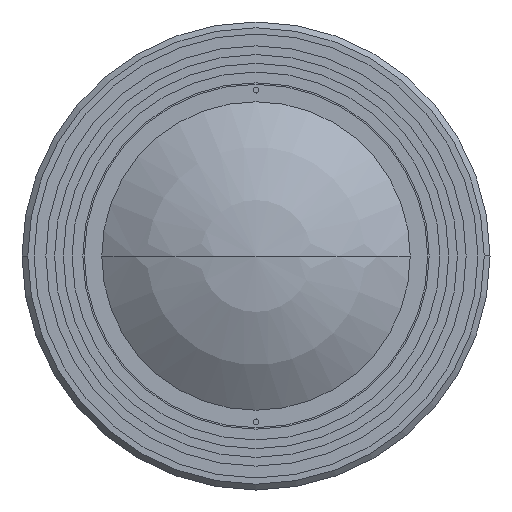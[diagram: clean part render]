
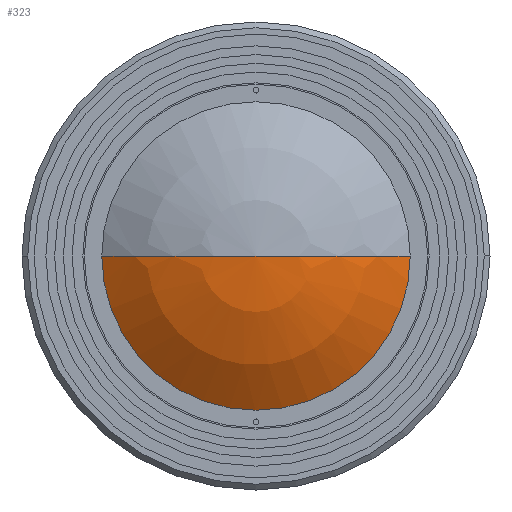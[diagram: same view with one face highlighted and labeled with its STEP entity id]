
A CAD part, left-side view. The second image highlights one B-rep face of the part: STEP entity #323.
In plain terms, the highlighted spherical face has radius 44.07 mm.
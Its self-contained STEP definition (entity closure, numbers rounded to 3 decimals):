
#205=CARTESIAN_POINT('',(44.07,0.,0.));
#206=DIRECTION('',(0.,0.,1.));
#207=DIRECTION('',(-1.,0.,0.));
#208=AXIS2_PLACEMENT_3D('',#205,#206,#207);
#210=CARTESIAN_POINT('',(9.239,0.,0.));
#211=DIRECTION('',(1.,0.,0.));
#212=DIRECTION('',(0.,-1.,0.));
#213=AXIS2_PLACEMENT_3D('',#210,#211,#212);
#215=CARTESIAN_POINT('',(44.07,0.,0.));
#216=DIRECTION('',(0.,0.,-1.));
#217=DIRECTION('',(-1.,0.,0.));
#218=AXIS2_PLACEMENT_3D('',#215,#216,#217);
#229=CARTESIAN_POINT('',(9.239,27.,0.));
#230=VERTEX_POINT('',#229);
#231=CARTESIAN_POINT('',(9.239,-27.,0.));
#232=VERTEX_POINT('',#231);
#233=CARTESIAN_POINT('',(0.,0.,0.));
#234=VERTEX_POINT('',#233);
#311=CARTESIAN_POINT('',(44.07,0.,0.));
#312=DIRECTION('',(-1.,0.,0.));
#313=DIRECTION('',(0.,1.,0.));
#314=AXIS2_PLACEMENT_3D('',#311,#312,#313);
#315=SPHERICAL_SURFACE('',#314,44.07);
#317=ORIENTED_EDGE('',*,*,#316,.F.);
#319=ORIENTED_EDGE('',*,*,#318,.T.);
#320=ORIENTED_EDGE('',*,*,#304,.T.);
#321=EDGE_LOOP('',(#317,#319,#320));
#322=FACE_OUTER_BOUND('',#321,.F.);
#323=ADVANCED_FACE('',(#322),#315,.T.);
#209=CIRCLE('',#208,44.07);
#214=CIRCLE('',#213,27.);
#219=CIRCLE('',#218,44.07);
#304=EDGE_CURVE('',#232,#230,#214,.T.);
#316=EDGE_CURVE('',#234,#230,#219,.T.);
#318=EDGE_CURVE('',#234,#232,#209,.T.);
